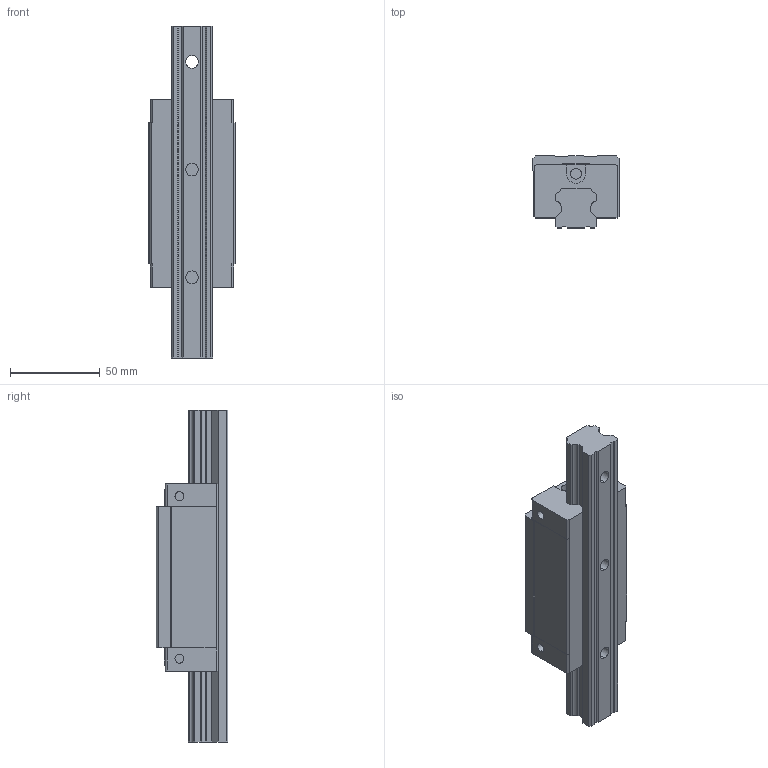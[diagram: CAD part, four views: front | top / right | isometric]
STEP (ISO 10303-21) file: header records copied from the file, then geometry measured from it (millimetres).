
FILE_DESCRIPTION((''),'2;1');
FILE_NAME('ASM0003_ASM','2008-07-11T',('immo'),(''),'PRO/ENGINEER BY PARAMETRIC TECHNOLOGY CORPORATION, 2004360','PRO/ENGINEER BY PARAMETRIC TECHNOLOGY CORPORATION, 2004360','');
FILE_SCHEMA(('CONFIG_CONTROL_DESIGN'));
Length unit declared in the file: millimetre
Products named in the file (5): PRT0001_2; HG_BLOCK_HGHHA_ANY_1; ASM0001_ASM_ASM_1_ASM; HGH25H_ANY_ASM_ASM_2_ASM; ASM0003_ASM
Assembly tree (4 placements, depth 4):
  ASM0003_ASM
    HGH25H_ANY_ASM_ASM_2_ASM
      PRT0001_2
      ASM0001_ASM_ASM_1_ASM
        HG_BLOCK_HGHHA_ANY_1
Bounding box: 48 x 40 x 185 mm (x, y, z)
Volume: 205191.7 mm3; surface area: 44437.4 mm2
Topology: 2 solids, 2 shells, 175 faces, 492 edges, 330 vertices
Faces by surface type: plane 111, cylinder 56, cone 8
Entity records: 5783 total; most frequent: CARTESIAN_POINT 1001, DIRECTION 980, ORIENTED_EDGE 968, EDGE_CURVE 484, VECTOR 362, LINE 362, VERTEX_POINT 330, AXIS2_PLACEMENT_3D 309
